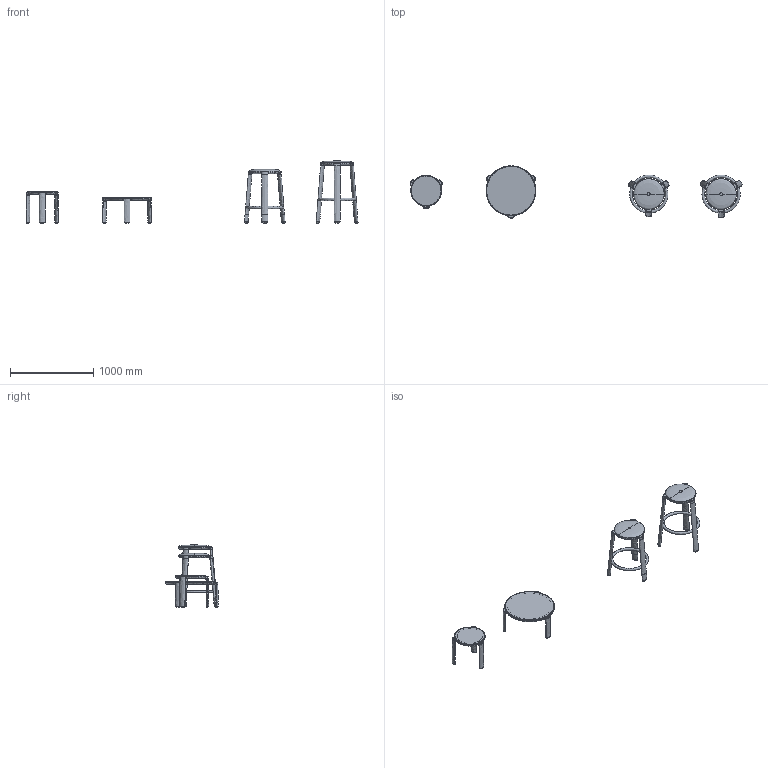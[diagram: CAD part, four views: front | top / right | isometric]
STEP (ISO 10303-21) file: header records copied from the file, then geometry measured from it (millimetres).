
FILE_DESCRIPTION(/* description */ (''),/* implementation_level */ '2;1');
FILE_NAME(/* name */ 'TRUE_Cute_3D',/* time_stamp */ '2024-10-22T12:35:36+02:00',/* author */ (''),/* organization */ (''),/* preprocessor_version */ 'ST-DEVELOPER v16.5',/* originating_system */ 'Rhino 7.21',/* authorisation */ '');
FILE_SCHEMA (('CONFIG_CONTROL_DESIGN'));
Length unit declared in the file: millimetre
Products named in the file (1): Document
Bounding box: 3993.31 x 629.46 x 746.13 mm (x, y, z)
Volume: 23019852.2 mm3; surface area: 3073275.7 mm2
Topology: 22 solids, 31 shells, 596 faces, 1348 edges, 805 vertices
Faces by surface type: bspline 386, plane 117, cylinder 93
Full cylindrical faces by diameter (mm): 2 x18, 6 x3, 270 x2, 300.815 x1, 357 x1, 359 x1, 530.815 x1, 587 x1, 589 x1, 600 x1
Entity records: 68716 total; most frequent: CARTESIAN_POINT 60435, ORIENTED_EDGE 2589, EDGE_CURVE 1299, VERTEX_POINT 766, B_SPLINE_CURVE_WITH_KNOTS 695, EDGE_LOOP 618, ADVANCED_FACE 596, FACE_OUTER_BOUND 596
